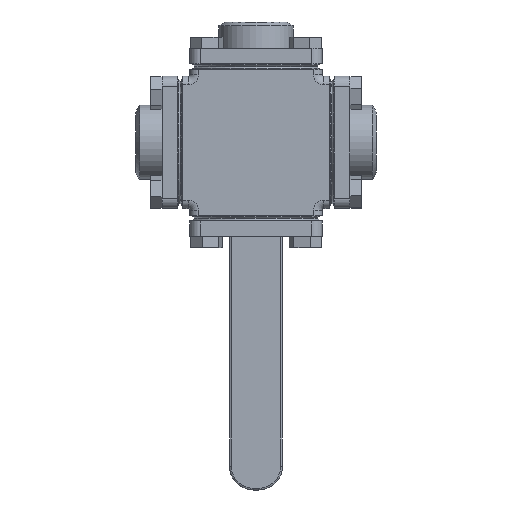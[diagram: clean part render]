
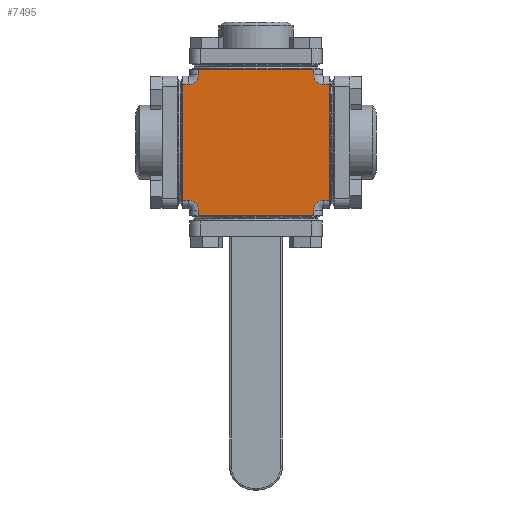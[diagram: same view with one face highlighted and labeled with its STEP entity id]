
A CAD part, front view. The second image highlights one B-rep face of the part: STEP entity #7495.
In plain terms, the highlighted planar face has unit normal (0, -1, 0).
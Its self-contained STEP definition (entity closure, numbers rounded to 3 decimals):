
#265 = FACE_OUTER_BOUND ( 'NONE', #3597, .T. ) ;
#919 = LINE ( 'NONE', #1641, #928 ) ;
#928 = VECTOR ( 'NONE', #1642, 1000. ) ;
#935 = LINE ( 'NONE', #1660, #939 ) ;
#939 = VECTOR ( 'NONE', #1661, 1000. ) ;
#948 = LINE ( 'NONE', #1683, #952 ) ;
#952 = VECTOR ( 'NONE', #1684, 1000. ) ;
#997 = LINE ( 'NONE', #1748, #1001 ) ;
#1000 = LINE ( 'NONE', #1765, #1010 ) ;
#1001 = VECTOR ( 'NONE', #1749, 1000. ) ;
#1004 = LINE ( 'NONE', #1757, #1005 ) ;
#1005 = VECTOR ( 'NONE', #1758, 1000. ) ;
#1007 = LINE ( 'NONE', #1775, #1015 ) ;
#1009 = LINE ( 'NONE', #1770, #1012 ) ;
#1010 = VECTOR ( 'NONE', #1766, 1000. ) ;
#1012 = VECTOR ( 'NONE', #1771, 1000. ) ;
#1014 = LINE ( 'NONE', #1784, #1017 ) ;
#1015 = VECTOR ( 'NONE', #1776, 1000. ) ;
#1016 = CIRCLE ( 'NONE', #11805, 6. ) ;
#1017 = VECTOR ( 'NONE', #1785, 1000. ) ;
#1018 = CIRCLE ( 'NONE', #11806, 6. ) ;
#1019 = LINE ( 'NONE', #1777, #1020 ) ;
#1020 = VECTOR ( 'NONE', #1778, 1000. ) ;
#1021 = LINE ( 'NONE', #1779, #1022 ) ;
#1022 = VECTOR ( 'NONE', #1780, 1000. ) ;
#1023 = LINE ( 'NONE', #1791, #1027 ) ;
#1025 = CIRCLE ( 'NONE', #11807, 6. ) ;
#1027 = VECTOR ( 'NONE', #1792, 1000. ) ;
#1030 = CIRCLE ( 'NONE', #11804, 6. ) ;
#1641 = CARTESIAN_POINT ( 'NONE',  ( 38.75, -38.75, -43. ) ) ;
#1642 = DIRECTION ( 'NONE',  ( -1., 0., 0. ) ) ;
#1660 = CARTESIAN_POINT ( 'NONE',  ( -43., -38.75, -38.75 ) ) ;
#1661 = DIRECTION ( 'NONE',  ( 0., 0., 1. ) ) ;
#1683 = CARTESIAN_POINT ( 'NONE',  ( -38.75, -38.75, 43. ) ) ;
#1684 = DIRECTION ( 'NONE',  ( 1., 0., 0. ) ) ;
#1748 = CARTESIAN_POINT ( 'NONE',  ( 43., -38.75, 33.75 ) ) ;
#1749 = DIRECTION ( 'NONE',  ( -1., 0., 0. ) ) ;
#1757 = CARTESIAN_POINT ( 'NONE',  ( 43., -38.75, 38.75 ) ) ;
#1758 = DIRECTION ( 'NONE',  ( 0., 0., -1. ) ) ;
#1759 = CARTESIAN_POINT ( 'NONE',  ( -39.75, -38.75, 39.75 ) ) ;
#1762 = CARTESIAN_POINT ( 'NONE',  ( 39.75, -38.75, 39.75 ) ) ;
#1765 = CARTESIAN_POINT ( 'NONE',  ( -33.75, -38.75, 38.75 ) ) ;
#1766 = DIRECTION ( 'NONE',  ( 0., 0., -1. ) ) ;
#1767 = CARTESIAN_POINT ( 'NONE',  ( -39.75, -38.75, -39.75 ) ) ;
#1768 = DIRECTION ( 'NONE',  ( 0., 1., 0. ) ) ;
#1769 = DIRECTION ( 'NONE',  ( 0., 0., 1. ) ) ;
#1770 = CARTESIAN_POINT ( 'NONE',  ( 33.75, -38.75, 38.75 ) ) ;
#1771 = DIRECTION ( 'NONE',  ( 0., 0., 1. ) ) ;
#1773 = DIRECTION ( 'NONE',  ( 0., 1., 0. ) ) ;
#1774 = DIRECTION ( 'NONE',  ( 0., 0., 1. ) ) ;
#1775 = CARTESIAN_POINT ( 'NONE',  ( -33.75, -38.75, 38.75 ) ) ;
#1776 = DIRECTION ( 'NONE',  ( 0., 0., -1. ) ) ;
#1777 = CARTESIAN_POINT ( 'NONE',  ( 43., -38.75, -33.75 ) ) ;
#1778 = DIRECTION ( 'NONE',  ( 1., 0., 0. ) ) ;
#1779 = CARTESIAN_POINT ( 'NONE',  ( 43., -38.75, -33.75 ) ) ;
#1780 = DIRECTION ( 'NONE',  ( 1., 0., 0. ) ) ;
#1781 = CARTESIAN_POINT ( 'NONE',  ( 39.75, -38.75, -39.75 ) ) ;
#1782 = DIRECTION ( 'NONE',  ( 0., 1., 0. ) ) ;
#1783 = DIRECTION ( 'NONE',  ( 0., 0., 1. ) ) ;
#1784 = CARTESIAN_POINT ( 'NONE',  ( 33.75, -38.75, 38.75 ) ) ;
#1785 = DIRECTION ( 'NONE',  ( 0., 0., 1. ) ) ;
#1789 = DIRECTION ( 'NONE',  ( 0., 1., 0. ) ) ;
#1790 = DIRECTION ( 'NONE',  ( 0., 0., 1. ) ) ;
#1791 = CARTESIAN_POINT ( 'NONE',  ( 43., -38.75, 33.75 ) ) ;
#1792 = DIRECTION ( 'NONE',  ( -1., 0., 0. ) ) ;
#3597 = EDGE_LOOP ( 'NONE', ( #6951, #6950, #6949, #6948, #6947, #6946, #6945, #6944, #6943, #6942, #6941, #6939, #6938, #6937, #6936, #6935 ) ) ;
#6598 = AXIS2_PLACEMENT_3D ( 'NONE', #12645, #12654, #12655 ) ;
#6935 = ORIENTED_EDGE ( 'NONE', *, *, #10727, .T. ) ;
#6936 = ORIENTED_EDGE ( 'NONE', *, *, #10713, .F. ) ;
#6937 = ORIENTED_EDGE ( 'NONE', *, *, #10722, .T. ) ;
#6938 = ORIENTED_EDGE ( 'NONE', *, *, #10726, .T. ) ;
#6939 = ORIENTED_EDGE ( 'NONE', *, *, #10724, .T. ) ;
#6941 = ORIENTED_EDGE ( 'NONE', *, *, #10665, .F. ) ;
#6942 = ORIENTED_EDGE ( 'NONE', *, *, #10716, .T. ) ;
#6943 = ORIENTED_EDGE ( 'NONE', *, *, #10723, .T. ) ;
#6944 = ORIENTED_EDGE ( 'NONE', *, *, #10721, .T. ) ;
#6945 = ORIENTED_EDGE ( 'NONE', *, *, #10672, .F. ) ;
#6946 = ORIENTED_EDGE ( 'NONE', *, *, #10710, .T. ) ;
#6947 = ORIENTED_EDGE ( 'NONE', *, *, #10717, .T. ) ;
#6948 = ORIENTED_EDGE ( 'NONE', *, *, #10720, .T. ) ;
#6949 = ORIENTED_EDGE ( 'NONE', *, *, #10681, .F. ) ;
#6950 = ORIENTED_EDGE ( 'NONE', *, *, #10718, .T. ) ;
#6951 = ORIENTED_EDGE ( 'NONE', *, *, #10719, .T. ) ;
#7495 = ADVANCED_FACE ( 'NONE', ( #265 ), #12644, .F. ) ;
#8121 = CARTESIAN_POINT ( 'NONE',  ( -33.75, -38.75, 39.75 ) ) ;
#8131 = CARTESIAN_POINT ( 'NONE',  ( -43., -38.75, 33.75 ) ) ;
#8133 = CARTESIAN_POINT ( 'NONE',  ( -39.75, -38.75, 33.75 ) ) ;
#8139 = CARTESIAN_POINT ( 'NONE',  ( 43., -38.75, 33.75 ) ) ;
#8155 = CARTESIAN_POINT ( 'NONE',  ( 33.75, -38.75, -43. ) ) ;
#8158 = CARTESIAN_POINT ( 'NONE',  ( 39.75, -38.75, -33.75 ) ) ;
#8163 = CARTESIAN_POINT ( 'NONE',  ( -39.75, -38.75, -33.75 ) ) ;
#8170 = CARTESIAN_POINT ( 'NONE',  ( -33.75, -38.75, -43. ) ) ;
#8176 = CARTESIAN_POINT ( 'NONE',  ( 43., -38.75, -33.75 ) ) ;
#8190 = CARTESIAN_POINT ( 'NONE',  ( -33.75, -38.75, -39.75 ) ) ;
#8191 = CARTESIAN_POINT ( 'NONE',  ( -33.75, -38.75, 43. ) ) ;
#8210 = CARTESIAN_POINT ( 'NONE',  ( -43., -38.75, -33.75 ) ) ;
#8211 = CARTESIAN_POINT ( 'NONE',  ( 33.75, -38.75, 39.75 ) ) ;
#8213 = CARTESIAN_POINT ( 'NONE',  ( 33.75, -38.75, 43. ) ) ;
#8220 = CARTESIAN_POINT ( 'NONE',  ( 33.75, -38.75, -39.75 ) ) ;
#8224 = CARTESIAN_POINT ( 'NONE',  ( 39.75, -38.75, 33.75 ) ) ;
#10665 = EDGE_CURVE ( 'NONE', #11213, #11228, #919, .T. ) ;
#10672 = EDGE_CURVE ( 'NONE', #11268, #11189, #935, .T. ) ;
#10681 = EDGE_CURVE ( 'NONE', #11249, #11271, #948, .T. ) ;
#10710 = EDGE_CURVE ( 'NONE', #11191, #11189, #997, .T. ) ;
#10713 = EDGE_CURVE ( 'NONE', #11197, #11234, #1004, .T. ) ;
#10716 = EDGE_CURVE ( 'NONE', #11248, #11228, #1000, .T. ) ;
#10717 = EDGE_CURVE ( 'NONE', #11177, #11191, #1016, .T. ) ;
#10718 = EDGE_CURVE ( 'NONE', #11269, #11271, #1009, .T. ) ;
#10719 = EDGE_CURVE ( 'NONE', #11282, #11269, #1018, .T. ) ;
#10720 = EDGE_CURVE ( 'NONE', #11249, #11177, #1007, .T. ) ;
#10721 = EDGE_CURVE ( 'NONE', #11268, #11221, #1019, .T. ) ;
#10722 = EDGE_CURVE ( 'NONE', #11216, #11234, #1021, .T. ) ;
#10723 = EDGE_CURVE ( 'NONE', #11221, #11248, #1025, .T. ) ;
#10724 = EDGE_CURVE ( 'NONE', #11213, #11278, #1014, .T. ) ;
#10726 = EDGE_CURVE ( 'NONE', #11278, #11216, #1030, .T. ) ;
#10727 = EDGE_CURVE ( 'NONE', #11197, #11282, #1023, .T. ) ;
#11177 = VERTEX_POINT ( 'NONE', #8121 ) ;
#11189 = VERTEX_POINT ( 'NONE', #8131 ) ;
#11191 = VERTEX_POINT ( 'NONE', #8133 ) ;
#11197 = VERTEX_POINT ( 'NONE', #8139 ) ;
#11213 = VERTEX_POINT ( 'NONE', #8155 ) ;
#11216 = VERTEX_POINT ( 'NONE', #8158 ) ;
#11221 = VERTEX_POINT ( 'NONE', #8163 ) ;
#11228 = VERTEX_POINT ( 'NONE', #8170 ) ;
#11234 = VERTEX_POINT ( 'NONE', #8176 ) ;
#11248 = VERTEX_POINT ( 'NONE', #8190 ) ;
#11249 = VERTEX_POINT ( 'NONE', #8191 ) ;
#11268 = VERTEX_POINT ( 'NONE', #8210 ) ;
#11269 = VERTEX_POINT ( 'NONE', #8211 ) ;
#11271 = VERTEX_POINT ( 'NONE', #8213 ) ;
#11278 = VERTEX_POINT ( 'NONE', #8220 ) ;
#11282 = VERTEX_POINT ( 'NONE', #8224 ) ;
#11804 = AXIS2_PLACEMENT_3D ( 'NONE', #1781, #1789, #1790 ) ;
#11805 = AXIS2_PLACEMENT_3D ( 'NONE', #1759, #1768, #1769 ) ;
#11806 = AXIS2_PLACEMENT_3D ( 'NONE', #1762, #1773, #1774 ) ;
#11807 = AXIS2_PLACEMENT_3D ( 'NONE', #1767, #1782, #1783 ) ;
#12644 = PLANE ( 'NONE',  #6598 ) ;
#12645 = CARTESIAN_POINT ( 'NONE',  ( 43., -38.75, 38.75 ) ) ;
#12654 = DIRECTION ( 'NONE',  ( 0., 1., 0. ) ) ;
#12655 = DIRECTION ( 'NONE',  ( 0., 0., 1. ) ) ;
